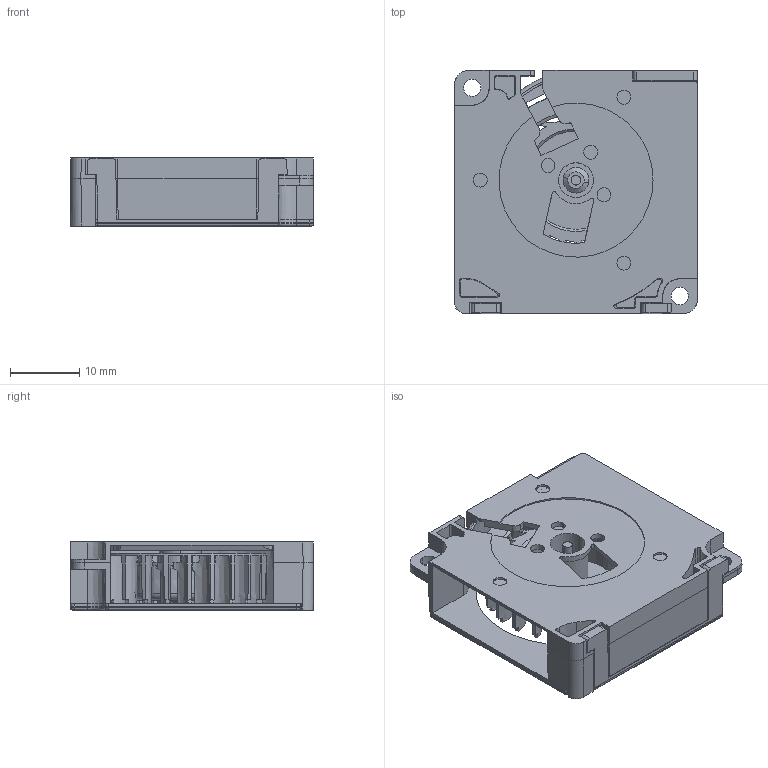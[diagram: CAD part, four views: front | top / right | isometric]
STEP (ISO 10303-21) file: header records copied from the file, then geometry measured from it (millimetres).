
FILE_DESCRIPTION(/* description */ (''),/* implementation_level */ '2;1');
FILE_NAME(/* name */ '3010_ASM.stp',/* time_stamp */ '2015-11-14T16:06:23+08:00',/* author */ (''),/* organization */ (''),/* preprocessor_version */ 'ST-DEVELOPER v11',/* originating_system */ 'SIEMENS PLM Software NX 7.5',/* authorisation */ '');
FILE_SCHEMA (('AUTOMOTIVE_DESIGN { 1 0 10303 214 1 1 1 1 }'));
Length unit declared in the file: millimetre
Products named in the file (1): Admi81B2sm8d
Bounding box: 35 x 35 x 9.8 mm (x, y, z)
Volume: 3673.9 mm3; surface area: 9832 mm2
Topology: 3 solids, 3 shells, 717 faces, 2105 edges, 1377 vertices
Faces by surface type: plane 381, cylinder 131, cone 125, bspline 51, extrusion 19, torus 10
Entity records: 27283 total; most frequent: CARTESIAN_POINT 8536, ORIENTED_EDGE 4210, DIRECTION 3635, EDGE_CURVE 2105, VERTEX_POINT 1377, AXIS2_PLACEMENT_3D 1325, VECTOR 985, LINE 966
